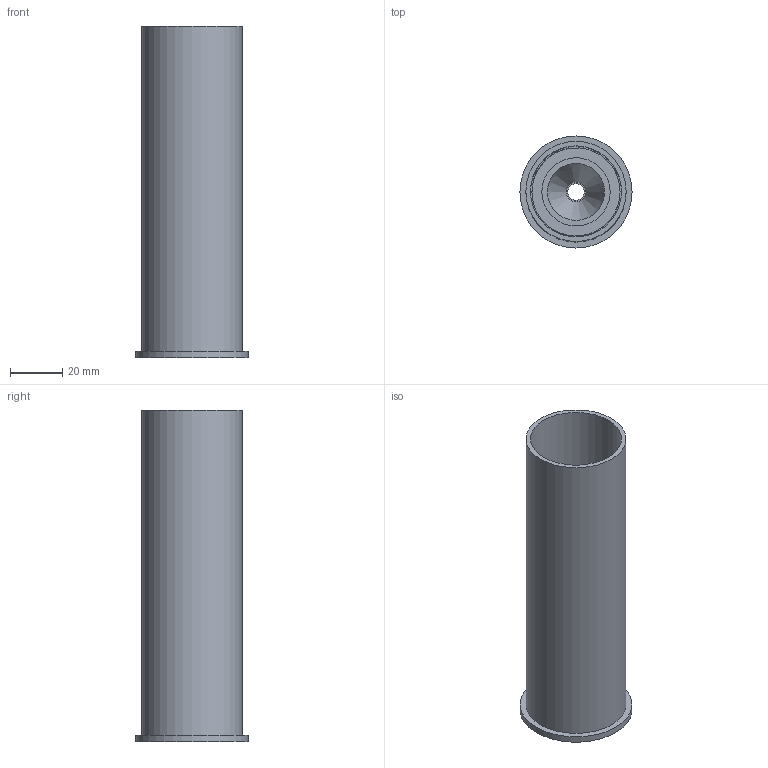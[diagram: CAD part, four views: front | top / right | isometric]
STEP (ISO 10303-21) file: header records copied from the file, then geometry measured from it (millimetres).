
FILE_DESCRIPTION(/* description */ ('STEP AP214'),/* implementation_level */ '2;1');
FILE_NAME(/* name */ '60118211d7d4451603b771af',/* time_stamp */ '2021-01-27T15:09:06+00:00',/* author */ (''),/* organization */ (''),/* preprocessor_version */ 'ST-DEVELOPER v18.1',/* originating_system */ ' ',/* authorisation */ ' ');
FILE_SCHEMA (('AUTOMOTIVE_DESIGN {1 0 10303 214 3 1 1}'));
Length unit declared in the file: metre
Products named in the file (1): Part 1
Bounding box: 42.93 x 42.93 x 127 mm (x, y, z)
Volume: 46549.2 mm3; surface area: 31651.4 mm2
Topology: 1 solids, 1 shells, 15 faces, 22 edges, 15 vertices
Faces by surface type: plane 8, cylinder 5, cone 1, bspline 1
Full cylindrical faces by diameter (mm): 6.3 x1, 8.8 x1, 34.85 x1, 38.354 x1, 42.926 x1
Entity records: 483 total; most frequent: CARTESIAN_POINT 203, DIRECTION 54, ORIENTED_EDGE 30, EDGE_LOOP 30, FACE_BOUND 30, AXIS2_PLACEMENT_3D 27, EDGE_CURVE 15, VERTEX_POINT 15
